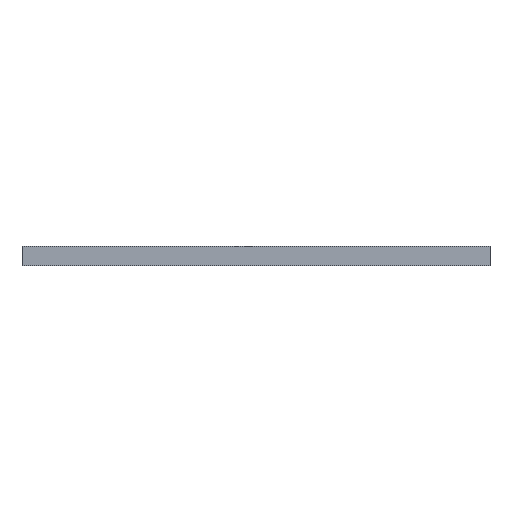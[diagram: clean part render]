
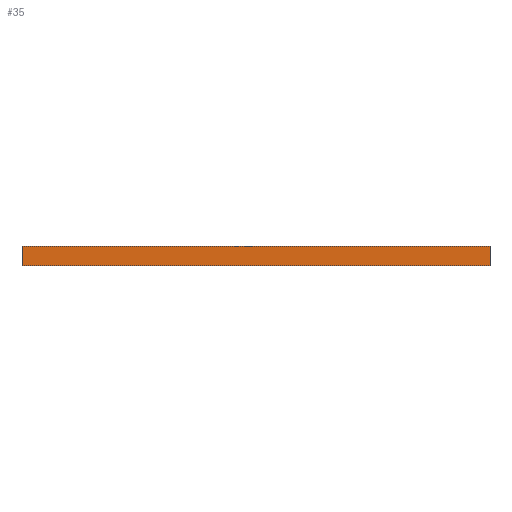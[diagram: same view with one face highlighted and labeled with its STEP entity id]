
A CAD part, front view. The second image highlights one B-rep face of the part: STEP entity #35.
In plain terms, the highlighted planar face has unit normal (0, -1, 0).
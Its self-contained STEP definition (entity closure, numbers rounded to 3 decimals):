
#35 = ADVANCED_FACE('',(#36),#70,.T.);
#36 = FACE_BOUND('',#37,.T.);
#37 = EDGE_LOOP('',(#38,#48,#56,#64));
#38 = ORIENTED_EDGE('',*,*,#39,.T.);
#39 = EDGE_CURVE('',#40,#42,#44,.T.);
#40 = VERTEX_POINT('',#41);
#41 = CARTESIAN_POINT('',(36.,-60.,0.));
#42 = VERTEX_POINT('',#43);
#43 = CARTESIAN_POINT('',(36.,-60.,1.51));
#44 = LINE('',#45,#46);
#45 = CARTESIAN_POINT('',(36.,-60.,0.));
#46 = VECTOR('',#47,1.);
#47 = DIRECTION('',(0.,0.,1.));
#48 = ORIENTED_EDGE('',*,*,#49,.T.);
#49 = EDGE_CURVE('',#42,#50,#52,.T.);
#50 = VERTEX_POINT('',#51);
#51 = CARTESIAN_POINT('',(0.,-60.,1.51));
#52 = LINE('',#53,#54);
#53 = CARTESIAN_POINT('',(36.,-60.,1.51));
#54 = VECTOR('',#55,1.);
#55 = DIRECTION('',(-1.,0.,0.));
#56 = ORIENTED_EDGE('',*,*,#57,.F.);
#57 = EDGE_CURVE('',#58,#50,#60,.T.);
#58 = VERTEX_POINT('',#59);
#59 = CARTESIAN_POINT('',(0.,-60.,0.));
#60 = LINE('',#61,#62);
#61 = CARTESIAN_POINT('',(0.,-60.,0.));
#62 = VECTOR('',#63,1.);
#63 = DIRECTION('',(0.,0.,1.));
#64 = ORIENTED_EDGE('',*,*,#65,.F.);
#65 = EDGE_CURVE('',#40,#58,#66,.T.);
#66 = LINE('',#67,#68);
#67 = CARTESIAN_POINT('',(36.,-60.,0.));
#68 = VECTOR('',#69,1.);
#69 = DIRECTION('',(-1.,0.,0.));
#70 = PLANE('',#71);
#71 = AXIS2_PLACEMENT_3D('',#72,#73,#74);
#72 = CARTESIAN_POINT('',(36.,-60.,0.));
#73 = DIRECTION('',(0.,-1.,0.));
#74 = DIRECTION('',(-1.,0.,0.));
